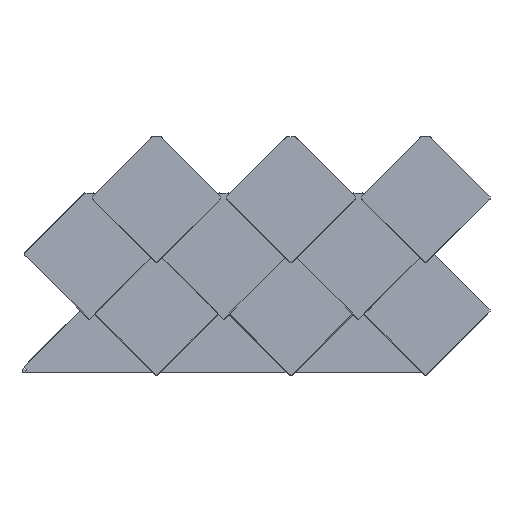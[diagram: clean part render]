
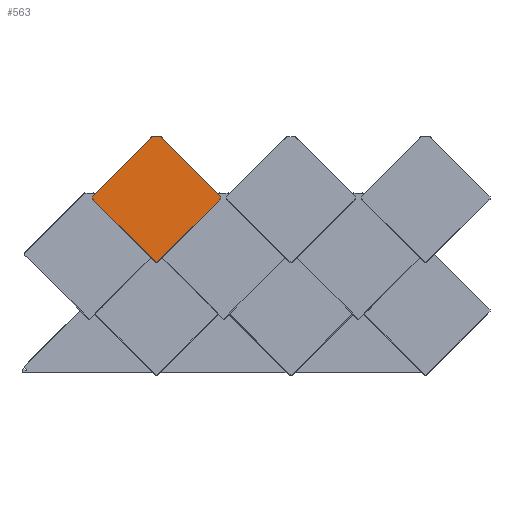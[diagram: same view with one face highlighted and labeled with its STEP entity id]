
A CAD part, top view. The second image highlights one B-rep face of the part: STEP entity #563.
In plain terms, the highlighted planar face has unit normal (0, 0.064, 0.998).
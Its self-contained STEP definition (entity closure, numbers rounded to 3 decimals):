
#68=PLANE('',#5493);
#563=ADVANCED_FACE('',(#728),#68,.T.);
#728=FACE_OUTER_BOUND('',#893,.T.);
#893=EDGE_LOOP('',(#1939,#1940,#1941,#1942,#1943,#1944,#1945,#1946,#1947,
#1948,#1949));
#1939=ORIENTED_EDGE('',*,*,#3000,.F.);
#1940=ORIENTED_EDGE('',*,*,#3001,.F.);
#1941=ORIENTED_EDGE('',*,*,#3002,.F.);
#1942=ORIENTED_EDGE('',*,*,#3003,.F.);
#1943=ORIENTED_EDGE('',*,*,#3004,.F.);
#1944=ORIENTED_EDGE('',*,*,#3007,.F.);
#1945=ORIENTED_EDGE('',*,*,#3005,.F.);
#1946=ORIENTED_EDGE('',*,*,#3008,.F.);
#1947=ORIENTED_EDGE('',*,*,#3006,.F.);
#1948=ORIENTED_EDGE('',*,*,#2999,.T.);
#1949=ORIENTED_EDGE('',*,*,#2998,.F.);
#2998=EDGE_CURVE('',#4282,#4283,#5404,.T.);
#2999=EDGE_CURVE('',#4284,#4283,#5405,.T.);
#3000=EDGE_CURVE('',#4285,#4282,#5406,.T.);
#3001=EDGE_CURVE('',#4286,#4285,#5407,.T.);
#3002=EDGE_CURVE('',#4287,#4286,#5408,.T.);
#3003=EDGE_CURVE('',#4288,#4287,#5409,.T.);
#3004=EDGE_CURVE('',#4289,#4288,#5410,.T.);
#3005=EDGE_CURVE('',#4291,#4290,#5411,.T.);
#3006=EDGE_CURVE('',#4284,#4292,#5412,.T.);
#3007=EDGE_CURVE('',#4290,#4289,#5413,.T.);
#3008=EDGE_CURVE('',#4292,#4291,#5414,.T.);
#4282=VERTEX_POINT('',#11590);
#4283=VERTEX_POINT('',#11591);
#4284=VERTEX_POINT('',#11592);
#4285=VERTEX_POINT('',#11593);
#4286=VERTEX_POINT('',#11594);
#4287=VERTEX_POINT('',#11595);
#4288=VERTEX_POINT('',#11596);
#4289=VERTEX_POINT('',#11597);
#4290=VERTEX_POINT('',#11598);
#4291=VERTEX_POINT('',#11599);
#4292=VERTEX_POINT('',#11600);
#5404=B_SPLINE_CURVE_WITH_KNOTS('',1,(#11601,#11602),.UNSPECIFIED.,.F.,
 .F.,(2,2),(0.,12.269),.UNSPECIFIED.);
#5405=B_SPLINE_CURVE_WITH_KNOTS('',1,(#11603,#11604),.UNSPECIFIED.,.F.,
 .F.,(2,2),(0.,5.277),.UNSPECIFIED.);
#5406=B_SPLINE_CURVE_WITH_KNOTS('',1,(#11605,#11606),.UNSPECIFIED.,.F.,
 .F.,(2,2),(0.,0.231),.UNSPECIFIED.);
#5407=B_SPLINE_CURVE_WITH_KNOTS('',1,(#11607,#11608),.UNSPECIFIED.,.F.,
 .F.,(2,2),(-292.5,0.),.UNSPECIFIED.);
#5408=B_SPLINE_CURVE_WITH_KNOTS('',1,(#11609,#11610),.UNSPECIFIED.,.F.,
 .F.,(2,2),(-292.5,0.),.UNSPECIFIED.);
#5409=B_SPLINE_CURVE_WITH_KNOTS('',1,(#11611,#11612),.UNSPECIFIED.,.F.,
 .F.,(2,2),(-0.231,0.),.UNSPECIFIED.);
#5410=B_SPLINE_CURVE_WITH_KNOTS('',1,(#11613,#11614),.UNSPECIFIED.,.F.,
 .F.,(2,2),(0.,12.269),.UNSPECIFIED.);
#5411=B_SPLINE_CURVE_WITH_KNOTS('',1,(#11615,#11616),.UNSPECIFIED.,.F.,
 .F.,(2,2),(0.,284.379),.UNSPECIFIED.);
#5412=B_SPLINE_CURVE_WITH_KNOTS('',1,(#11617,#11618),.UNSPECIFIED.,.F.,
 .F.,(2,2),(-284.379,0.),.UNSPECIFIED.);
#5413=B_SPLINE_CURVE_WITH_KNOTS('',1,(#11619,#11620),.UNSPECIFIED.,.F.,
 .F.,(2,2),(-5.277,0.),.UNSPECIFIED.);
#5414=B_SPLINE_CURVE_WITH_KNOTS('',1,(#11621,#11622),.UNSPECIFIED.,.F.,
 .F.,(2,2),(0.,29.163),.UNSPECIFIED.);
#5493=AXIS2_PLACEMENT_3D('',#11589,#5554,$);
#5554=DIRECTION('',(0.,0.064,0.998));
#11589=CARTESIAN_POINT('',(-638.907,344.73,12.977));
#11590=CARTESIAN_POINT('',(-583.762,333.439,13.698));
#11591=CARTESIAN_POINT('',(-592.438,342.097,13.145));
#11592=CARTESIAN_POINT('',(-592.438,347.363,12.809));
#11593=CARTESIAN_POINT('',(-583.599,333.602,13.688));
#11594=CARTESIAN_POINT('',(-376.77,127.194,26.863));
#11595=CARTESIAN_POINT('',(-169.942,333.602,13.688));
#11596=CARTESIAN_POINT('',(-169.778,333.439,13.698));
#11597=CARTESIAN_POINT('',(-161.103,342.097,13.145));
#11598=CARTESIAN_POINT('',(-161.103,347.363,12.809));
#11599=CARTESIAN_POINT('',(-362.189,548.041,0.));
#11600=CARTESIAN_POINT('',(-391.352,548.041,0.));
#11601=CARTESIAN_POINT('',(-583.762,333.439,13.698));
#11602=CARTESIAN_POINT('',(-592.438,342.097,13.145));
#11603=CARTESIAN_POINT('',(-592.438,347.363,12.809));
#11604=CARTESIAN_POINT('',(-592.438,342.097,13.145));
#11605=CARTESIAN_POINT('',(-583.599,333.602,13.688));
#11606=CARTESIAN_POINT('',(-583.762,333.439,13.698));
#11607=CARTESIAN_POINT('',(-376.77,127.194,26.863));
#11608=CARTESIAN_POINT('',(-583.599,333.602,13.688));
#11609=CARTESIAN_POINT('',(-169.942,333.602,13.688));
#11610=CARTESIAN_POINT('',(-376.77,127.194,26.863));
#11611=CARTESIAN_POINT('',(-169.778,333.439,13.698));
#11612=CARTESIAN_POINT('',(-169.942,333.602,13.688));
#11613=CARTESIAN_POINT('',(-161.103,342.097,13.145));
#11614=CARTESIAN_POINT('',(-169.778,333.439,13.698));
#11615=CARTESIAN_POINT('',(-362.189,548.041,0.));
#11616=CARTESIAN_POINT('',(-161.103,347.363,12.809));
#11617=CARTESIAN_POINT('',(-592.438,347.363,12.809));
#11618=CARTESIAN_POINT('',(-391.352,548.041,0.));
#11619=CARTESIAN_POINT('',(-161.103,347.363,12.809));
#11620=CARTESIAN_POINT('',(-161.103,342.097,13.145));
#11621=CARTESIAN_POINT('',(-391.352,548.041,0.));
#11622=CARTESIAN_POINT('',(-362.189,548.041,0.));
